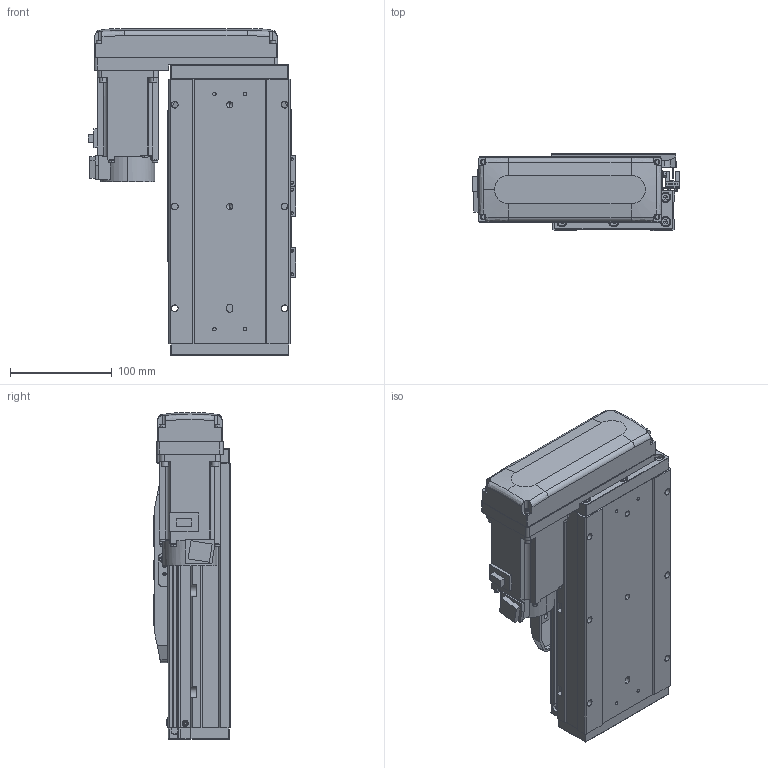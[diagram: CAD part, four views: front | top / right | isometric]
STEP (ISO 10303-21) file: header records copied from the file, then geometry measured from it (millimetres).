
FILE_DESCRIPTION (( 'STEP AP203' ), '1' );
FILE_NAME ('GTH12-50-BR-M40-C4.step', '2022-09-29T02:05:57', ( '微软用户' ), ( '微软中国' ), 'SwSTEP 2.0', 'SolidWorks 2020', '' );
FILE_SCHEMA (( 'CONFIG_CONTROL_DESIGN' ));
Length unit declared in the file: millimetre
Products named in the file (18): hg-kn43j_-s100_; GTH120-003; GTH80-022; CTHA86-033_M40B; GTH120-006; GTH80-028; GTH120-027-1_GTH120-027-2; GTH120-004; GTH50-023; GTH12-50-BR-M40-C4; GTH120-013; GTH50-024; GBT 70.1-M3℅6; GBT96.1-2002 3×0.8; GBT 70.1-M5×16; BTH-M3X5X6; GTH120-001_50; GBT 70.3-M3℅8
Assembly tree (59 placements, depth 2):
  GTH12-50-BR-M40-C4
    GTH120-001_50
    GTH120-003
    GTH120-006
    GTH120-004
    GTH120-013
    GBT 70.1-M3℅6  x14
    GBT 70.1-M5×16  x10
    GBT 70.3-M3℅8  x4
    GTH80-022
    GTH80-028  x2
    GTH50-023  x3
    GTH50-024  x3
    GBT96.1-2002 3×0.8  x6
    BTH-M3X5X6  x8
    hg-kn43j_-s100_
    CTHA86-033_M40B
    GTH120-027-1_GTH120-027-2
Bounding box: 203.5 x 76 x 320.5 mm (x, y, z)
Volume: 2943794.5 mm3; surface area: 381330.5 mm2
Topology: 61 solids, 61 shells, 2315 faces, 5356 edges, 3283 vertices
Faces by surface type: plane 1216, cylinder 643, cone 268, torus 174, sphere 8, bspline 6
Entity records: 41578 total; most frequent: CARTESIAN_POINT 7040, DIRECTION 6820, ORIENTED_EDGE 6322, EDGE_CURVE 3161, AXIS2_PLACEMENT_3D 2384, VECTOR 2052, LINE 2052, VERTEX_POINT 2004
